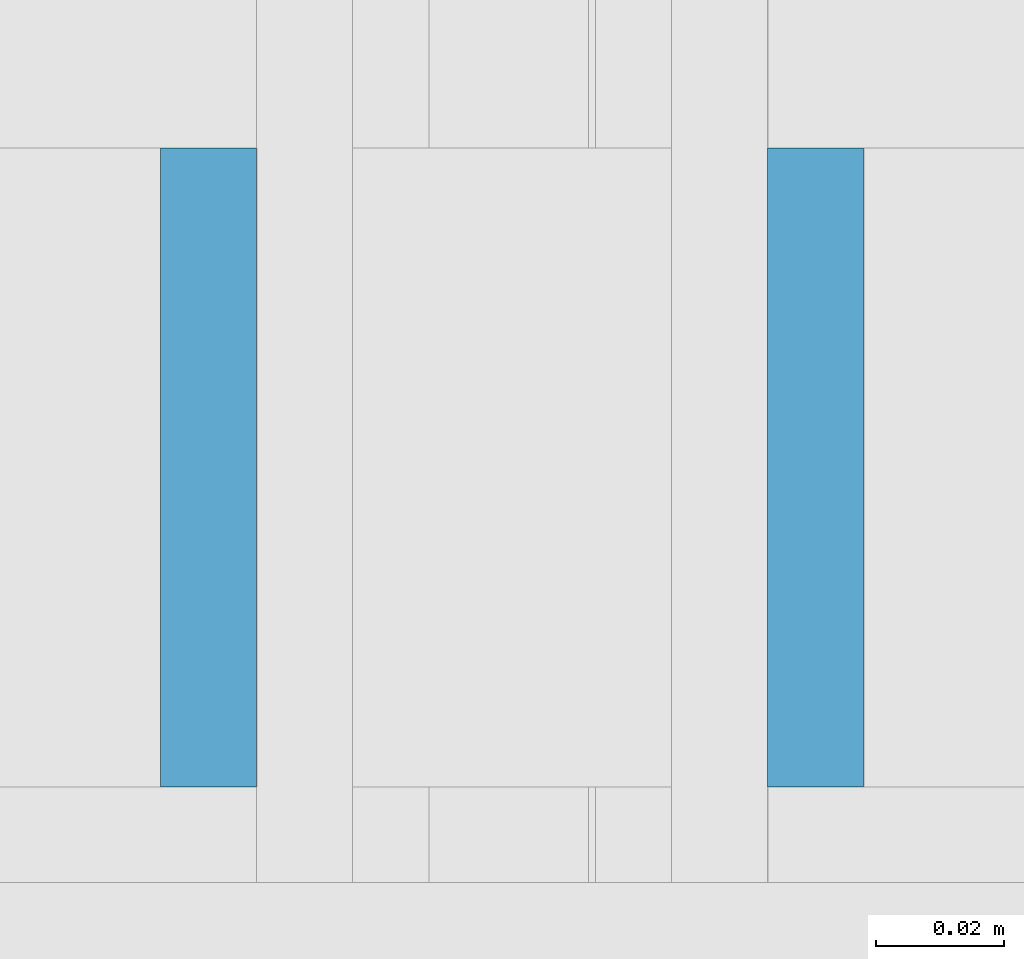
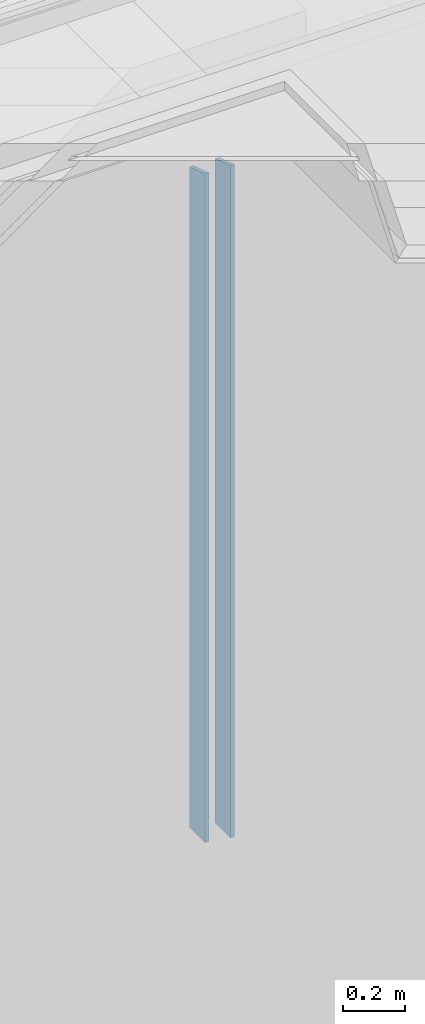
# One storey, part 140 of 583: 2 building element parts, 1 element without a shape of its own.
"""IFC2X3 building model written with IfcOpenShell, lengths in metres."""

from ifc_helpers import new_model, entity, si_unit, converted_unit, derived_unit, money_unit, direction, frame, frame_2d, origin_with_axes, place, context, subcontext, project, spatial, rectangle, extrude, clip, halfspace, material, type_object, element, aggregate, save


model = new_model("IFC2X3")

# Units and contexts
model_context = context("Model", 3, precision=1e-05, world=origin_with_axes(), true_north=direction((0.0, 1.0)))
body_context = subcontext(model_context, "Body", "Model", "MODEL_VIEW", scale=1.0)
ifc_project = project(units=[si_unit("LENGTHUNIT", "METRE"), si_unit("AREAUNIT", "SQUARE_METRE"), si_unit("VOLUMEUNIT", "CUBIC_METRE"), si_unit("ABSORBEDDOSEUNIT", "GRAY"), si_unit("AMOUNTOFSUBSTANCEUNIT", "MOLE"), si_unit("DOSEEQUIVALENTUNIT", "SIEVERT"), si_unit("ELECTRICCAPACITANCEUNIT", "FARAD"), si_unit("ELECTRICCHARGEUNIT", "COULOMB"), si_unit("ELECTRICCONDUCTANCEUNIT", "SIEMENS"), si_unit("ELECTRICCURRENTUNIT", "AMPERE"), si_unit("ELECTRICRESISTANCEUNIT", "OHM"), si_unit("ELECTRICVOLTAGEUNIT", "VOLT"), si_unit("ENERGYUNIT", "JOULE"), si_unit("FORCEUNIT", "NEWTON"), si_unit("FREQUENCYUNIT", "HERTZ"), si_unit("ILLUMINANCEUNIT", "LUX"), si_unit("INDUCTANCEUNIT", "HENRY"), si_unit("LUMINOUSFLUXUNIT", "LUMEN"), si_unit("LUMINOUSINTENSITYUNIT", "CANDELA"), si_unit("MAGNETICFLUXDENSITYUNIT", "TESLA"), si_unit("MAGNETICFLUXUNIT", "WEBER"), si_unit("MASSUNIT", "GRAM"), converted_unit("PLANEANGLEUNIT", "degree", entity("IfcReal", 0.0174532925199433), si_unit("PLANEANGLEUNIT", "RADIAN"), dimensions=[0, 0, 0, 0, 0, 0, 0]), si_unit("POWERUNIT", "WATT"), si_unit("PRESSUREUNIT", "PASCAL"), si_unit("RADIOACTIVITYUNIT", "BECQUEREL"), si_unit("SOLIDANGLEUNIT", "STERADIAN"), si_unit("THERMODYNAMICTEMPERATUREUNIT", "KELVIN"), si_unit("TIMEUNIT", "SECOND"), derived_unit("ACCELERATIONUNIT", [(si_unit("LENGTHUNIT", "METRE"), 1), (si_unit("TIMEUNIT", "SECOND"), -2)]), derived_unit("ANGULARVELOCITYUNIT", [(converted_unit("PLANEANGLEUNIT", "degree", entity("IfcReal", 0.0174532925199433), si_unit("PLANEANGLEUNIT", "RADIAN"), dimensions=[0, 0, 0, 0, 0, 0, 0]), 1), (si_unit("TIMEUNIT", "SECOND"), -1)]), derived_unit("CURVATUREUNIT", [(converted_unit("PLANEANGLEUNIT", "degree", entity("IfcReal", 0.0174532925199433), si_unit("PLANEANGLEUNIT", "RADIAN"), dimensions=[0, 0, 0, 0, 0, 0, 0]), 1), (si_unit("LENGTHUNIT", "METRE"), -1)]), derived_unit("DYNAMICVISCOSITYUNIT", [(si_unit("PRESSUREUNIT", "PASCAL"), 1), (si_unit("TIMEUNIT", "SECOND"), 1)]), derived_unit("HEATFLUXDENSITYUNIT", [(si_unit("POWERUNIT", "WATT"), 1), (si_unit("LENGTHUNIT", "METRE"), -2)]), derived_unit("HEATINGVALUEUNIT", [(si_unit("ENERGYUNIT", "JOULE"), 1), (si_unit("MASSUNIT", "GRAM"), -1)]), derived_unit("INTEGERCOUNTRATEUNIT", [(si_unit("TIMEUNIT", "SECOND"), -1)]), derived_unit("IONCONCENTRATIONUNIT", [(si_unit("MASSUNIT", "GRAM"), 1), (si_unit("VOLUMEUNIT", "CUBIC_METRE"), -1)]), derived_unit("ISOTHERMALMOISTURECAPACITYUNIT", [(si_unit("VOLUMEUNIT", "CUBIC_METRE"), 1), (si_unit("MASSUNIT", "GRAM"), -1)]), derived_unit("KINEMATICVISCOSITYUNIT", [(si_unit("AREAUNIT", "SQUARE_METRE"), 1), (si_unit("TIMEUNIT", "SECOND"), -1)]), derived_unit("LINEARFORCEUNIT", [(si_unit("FORCEUNIT", "NEWTON"), 1), (si_unit("LENGTHUNIT", "METRE"), -1)]), derived_unit("LINEARMOMENTUNIT", [(si_unit("FORCEUNIT", "NEWTON"), 1), (si_unit("LENGTHUNIT", "METRE"), -1)]), derived_unit("LINEARSTIFFNESSUNIT", [(si_unit("FORCEUNIT", "NEWTON"), 1), (si_unit("LENGTHUNIT", "METRE"), -1)]), derived_unit("LINEARVELOCITYUNIT", [(si_unit("LENGTHUNIT", "METRE"), 1), (si_unit("TIMEUNIT", "SECOND"), -1)]), derived_unit("LUMINOUSINTENSITYDISTRIBUTIONUNIT", [(si_unit("LUMINOUSINTENSITYUNIT", "CANDELA"), 1), (si_unit("LUMINOUSFLUXUNIT", "LUMEN"), -1)]), derived_unit("MASSDENSITYUNIT", [(si_unit("MASSUNIT", "GRAM"), 1), (si_unit("VOLUMEUNIT", "CUBIC_METRE"), -1)]), derived_unit("MASSFLOWRATEUNIT", [(si_unit("MASSUNIT", "GRAM"), 1), (si_unit("TIMEUNIT", "SECOND"), -1)]), derived_unit("MASSPERLENGTHUNIT", [(si_unit("MASSUNIT", "GRAM"), 1), (si_unit("LENGTHUNIT", "METRE"), -1)]), derived_unit("MODULUSOFELASTICITYUNIT", [(si_unit("FORCEUNIT", "NEWTON"), 1), (si_unit("AREAUNIT", "SQUARE_METRE"), -1)]), derived_unit("MODULUSOFLINEARSUBGRADEREACTIONUNIT", [(si_unit("FORCEUNIT", "NEWTON"), 1), (si_unit("LENGTHUNIT", "METRE"), -2)]), derived_unit("MODULUSOFROTATIONALSUBGRADEREACTIONUNIT", [(si_unit("FORCEUNIT", "NEWTON"), 1), (si_unit("LENGTHUNIT", "METRE"), 1)]), derived_unit("MODULUSOFSUBGRADEREACTIONUNIT", [(si_unit("FORCEUNIT", "NEWTON"), 1), (si_unit("VOLUMEUNIT", "CUBIC_METRE"), -1)]), derived_unit("MOISTUREDIFFUSIVITYUNIT", [(si_unit("VOLUMEUNIT", "CUBIC_METRE"), 1), (si_unit("TIMEUNIT", "SECOND"), -1)]), derived_unit("MOLECULARWEIGHTUNIT", [(si_unit("MASSUNIT", "GRAM"), 1), (si_unit("AMOUNTOFSUBSTANCEUNIT", "MOLE"), -1)]), derived_unit("PLANARFORCEUNIT", [(si_unit("FORCEUNIT", "NEWTON"), 1), (si_unit("LENGTHUNIT", "METRE"), -2)]), derived_unit("ROTATIONALFREQUENCYUNIT", [(si_unit("TIMEUNIT", "SECOND"), -1)]), derived_unit("ROTATIONALMASSUNIT", [(si_unit("MASSUNIT", "GRAM"), 1), (si_unit("LENGTHUNIT", "METRE"), 2)]), derived_unit("ROTATIONALSTIFFNESSUNIT", [(si_unit("FORCEUNIT", "NEWTON"), 1), (si_unit("LENGTHUNIT", "METRE"), 1), (converted_unit("PLANEANGLEUNIT", "degree", entity("IfcReal", 0.0174532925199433), si_unit("PLANEANGLEUNIT", "RADIAN"), dimensions=[0, 0, 0, 0, 0, 0, 0]), -1)]), derived_unit("SECTIONAREAINTEGRALUNIT", [(si_unit("LENGTHUNIT", "METRE"), 5)]), derived_unit("SECTIONMODULUSUNIT", [(si_unit("LENGTHUNIT", "METRE"), 3)]), derived_unit("SHEARMODULUSUNIT", [(si_unit("FORCEUNIT", "NEWTON"), 1), (si_unit("AREAUNIT", "SQUARE_METRE"), -1)]), derived_unit("SOUNDPOWERUNIT", [(si_unit("ENERGYUNIT", "JOULE"), 1), (si_unit("TIMEUNIT", "SECOND"), -1)]), derived_unit("SPECIFICHEATCAPACITYUNIT", [(si_unit("FORCEUNIT", "NEWTON"), 1), (si_unit("MASSUNIT", "GRAM"), -1), (si_unit("THERMODYNAMICTEMPERATUREUNIT", "KELVIN"), -1)]), derived_unit("TEMPERATUREGRADIENTUNIT", [(si_unit("THERMODYNAMICTEMPERATUREUNIT", "KELVIN"), 1), (si_unit("LENGTHUNIT", "METRE"), -1)]), derived_unit("THERMALADMITTANCEUNIT", [(si_unit("POWERUNIT", "WATT"), 1), (si_unit("AREAUNIT", "SQUARE_METRE"), -1), (si_unit("THERMODYNAMICTEMPERATUREUNIT", "KELVIN"), -1)]), derived_unit("THERMALCONDUCTANCEUNIT", [(si_unit("POWERUNIT", "WATT"), 1), (si_unit("LENGTHUNIT", "METRE"), -1), (si_unit("THERMODYNAMICTEMPERATUREUNIT", "KELVIN"), -1)]), derived_unit("THERMALEXPANSIONCOEFFICIENTUNIT", [(si_unit("THERMODYNAMICTEMPERATUREUNIT", "KELVIN"), -1)]), derived_unit("THERMALRESISTANCEUNIT", [(si_unit("AREAUNIT", "SQUARE_METRE"), 1), (si_unit("POWERUNIT", "WATT"), -1)]), derived_unit("THERMALTRANSMITTANCEUNIT", [(si_unit("POWERUNIT", "WATT"), 1), (si_unit("AREAUNIT", "SQUARE_METRE"), -1), (si_unit("THERMODYNAMICTEMPERATUREUNIT", "KELVIN"), -1)]), derived_unit("TORQUEUNIT", [(si_unit("FORCEUNIT", "NEWTON"), 1), (si_unit("LENGTHUNIT", "METRE"), 1)]), derived_unit("VAPORPERMEABILITYUNIT", [(si_unit("MASSUNIT", "GRAM"), 1), (si_unit("TIMEUNIT", "SECOND"), -1)]), derived_unit("VOLUMETRICFLOWRATEUNIT", [(si_unit("VOLUMEUNIT", "CUBIC_METRE"), 1), (si_unit("TIMEUNIT", "SECOND"), -1)]), derived_unit("WARPINGCONSTANTUNIT", [(si_unit("LENGTHUNIT", "METRE"), 6)]), derived_unit("WARPINGMOMENTUNIT", [(si_unit("FORCEUNIT", "NEWTON"), 1), (si_unit("LENGTHUNIT", "METRE"), 2)]), money_unit("GBP")], contexts=[model_context])

# Site, building, storey
site_placement = place(None, origin_with_axes())
site = spatial("IfcSite", under=ifc_project, at=site_placement, Name="Site", CompositionType="ELEMENT")
building_placement = place(site_placement, origin_with_axes())
building = spatial("IfcBuilding", under=site, at=building_placement, Name="Building01", CompositionType="ELEMENT")
storey_placement = place(building_placement, frame((0.0, 0.0, 20.78), z_axis=(0.0, 0.0, 1.0), x_axis=(1.0, 0.0, 0.0)))
storey = spatial("IfcBuildingStorey", under=building, at=storey_placement, Name="RL", CompositionType="ELEMENT", Elevation=20.78)

# Wall, building element parts
wall_type = type_object("IfcWallType", Name="SHE_A-Walls_Type05b_Partition_80mm", PredefinedType="NOTDEFINED")
wall_placement = place(storey_placement, frame((5.201915, 14.98, 2.983), z_axis=(0.0, 1.0, 0.0), x_axis=(0.0, 0.0, 1.0)))
wall = element("IfcWall", 1, at=wall_placement, inside=storey, type_object=wall_type, Name="5B", ObjectType="SHE_A-Walls_Type05b_Partition_80mm")
ifc_material = material(Name="A_BSUK_Walls_Timber")
placement = place(wall_placement, origin_with_axes())
building_element_part_1 = element("IfcBuildingElementPart", 2, at=placement, material=ifc_material, Name="2", context=body_context, shape_type="Clipping", body=[
    clip(extrude(rectangle(XDim=2.66127, YDim=0.015, at=frame_2d((1.357635, 0.0605), x_axis=(-1.0, 0.0))), frame((0.0, 0.0, 0.015), z_axis=(0.0, 0.0, 1.0), x_axis=(1.0, 0.0, 0.0)), (0.0, 0.0, 1.0), 0.1), halfspace(frame((2.435971, 0.0, 0.791495), z_axis=(-0.95105652, 0.0, -0.30901699), x_axis=(0.0, -1.0, 0.0)), True)),
])
building_element_part_2 = element("IfcBuildingElementPart", 3, at=placement, material=ifc_material, Name="5", context=body_context, shape_type="Clipping", body=[
    clip(extrude(rectangle(XDim=2.64627, YDim=0.015, at=frame_2d((1.365135, -0.0345), x_axis=(-1.0, 0.0))), frame((0.0, 0.0, 0.015), z_axis=(0.0, 0.0, 1.0), x_axis=(1.0, 0.0, 0.0)), (0.0, 0.0, 1.0), 0.1), halfspace(frame((2.435971, 0.0, 0.791495), z_axis=(-0.95105652, 0.0, -0.30901699), x_axis=(0.0, -1.0, 0.0)), True)),
])
aggregate(wall, [building_element_part_1, building_element_part_2])

save(model, "model.ifc")
